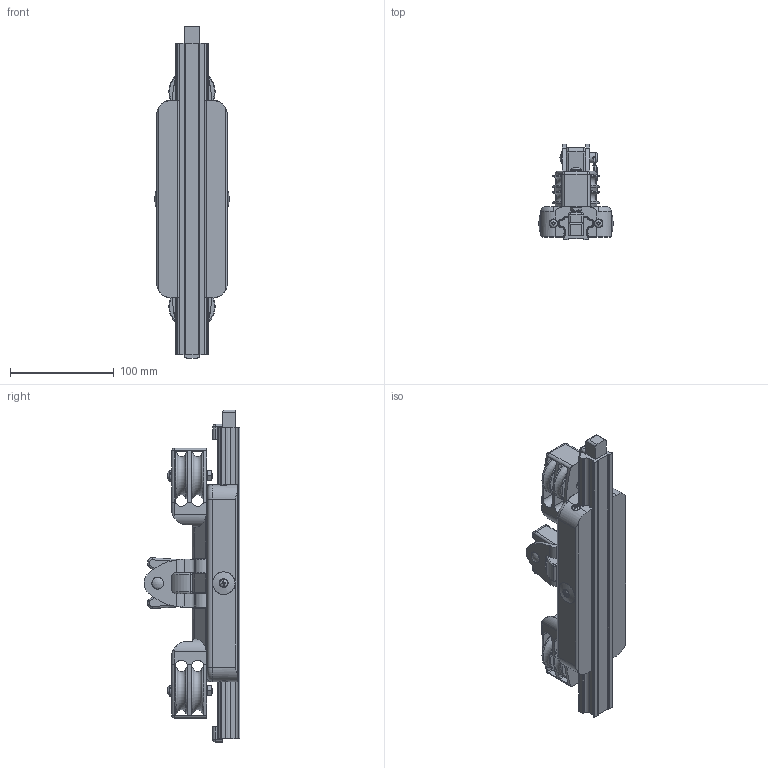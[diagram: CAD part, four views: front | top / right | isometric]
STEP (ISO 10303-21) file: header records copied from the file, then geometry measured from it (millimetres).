
FILE_DESCRIPTION(/* description */ (''),/* implementation_level */ '2;1');
FILE_NAME(/* name */ 'D:\Utenti\lucade\Desktop\4194.stp',/* time_stamp */ '2020-08-17T10:59:40+02:00',/* author */ ('lucade'),/* organization */ (''),/* preprocessor_version */ 'ST-DEVELOPER v18.1',/* originating_system */ 'Autodesk Inventor 2021',/* authorisation */ '');
FILE_SCHEMA (('AUTOMOTIVE_DESIGN { 1 0 10303 214 3 1 1 }'));
Length unit declared in the file: millimetre
Products named in the file (1): 4194
Bounding box: 71.95 x 92.07 x 319.8 mm (x, y, z)
Surface area: 128830.4 mm2
Topology: 7 solids, 8 shells, 1131 faces, 3082 edges, 1949 vertices
Faces by surface type: plane 443, cylinder 398, torus 117, bspline 96, cone 54, sphere 23
Full cylindrical faces by diameter (mm): 2.5 x1, 3.5 x2, 3.6 x2, 5.1 x2, 6 x10, 6.2 x8, 6.4 x2, 6.8 x2, 7.8 x2, 8 x3, 8.2 x3, 8.4 x4, 8.5 x6, 10 x3, 10.2 x2, 10.5 x12, 11.7 x6, 17 x4, 28 x6
Entity records: 41071 total; most frequent: CARTESIAN_POINT 13046, ORIENTED_EDGE 6104, DIRECTION 5793, EDGE_CURVE 3052, AXIS2_PLACEMENT_3D 2302, VERTEX_POINT 1951, EDGE_LOOP 1225, LINE 1189
